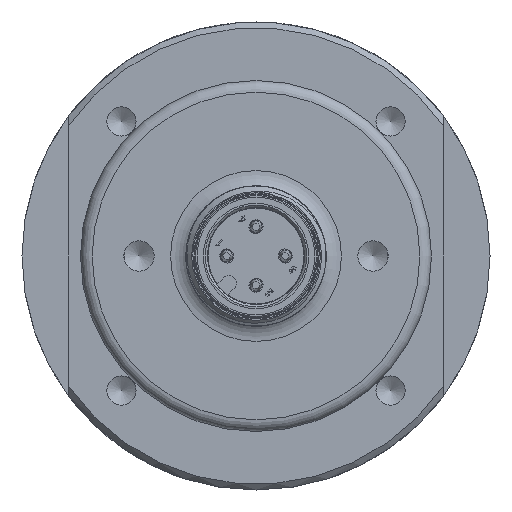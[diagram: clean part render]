
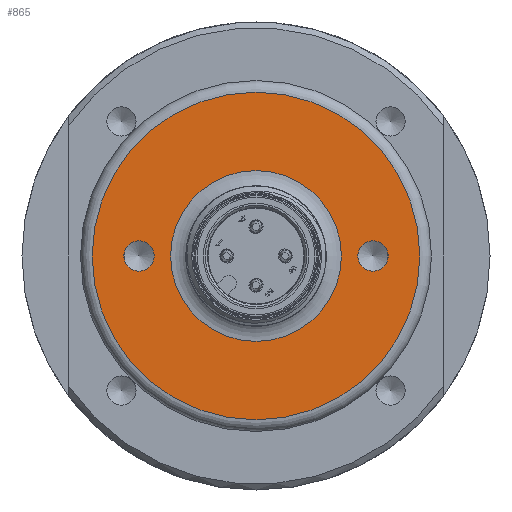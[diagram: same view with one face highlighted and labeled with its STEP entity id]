
A CAD part, front view. The second image highlights one B-rep face of the part: STEP entity #865.
In plain terms, the highlighted planar face has unit normal (0, -1, 0) as drawn and (0, 1, 0) by its records, which use the part's own axes.
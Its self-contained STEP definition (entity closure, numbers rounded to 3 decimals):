
#865 = ADVANCED_FACE( '', ( #1711, #1712, #1713, #1714 ), #1715, .T. );
#1711 = FACE_BOUND( '', #6386, .T. );
#1712 = FACE_OUTER_BOUND( '', #6387, .T. );
#1713 = FACE_BOUND( '', #6388, .T. );
#1714 = FACE_BOUND( '', #6389, .T. );
#1715 = PLANE( '', #6390 );
#6386 = EDGE_LOOP( '', ( #8309 ) );
#6387 = EDGE_LOOP( '', ( #8310 ) );
#6388 = EDGE_LOOP( '', ( #8311 ) );
#6389 = EDGE_LOOP( '', ( #8312 ) );
#6390 = AXIS2_PLACEMENT_3D( '', #8313, #8314, #8315 );
#8309 = ORIENTED_EDGE( '', *, *, #8699, .T. );
#8310 = ORIENTED_EDGE( '', *, *, #8629, .T. );
#8311 = ORIENTED_EDGE( '', *, *, #8486, .T. );
#8312 = ORIENTED_EDGE( '', *, *, #8434, .T. );
#8313 = CARTESIAN_POINT( '', ( -15., -2.104, 0. ) );
#8314 = DIRECTION( '', ( 0., 1., 0. ) );
#8315 = DIRECTION( '', ( -1., 0., 0. ) );
#8434 = EDGE_CURVE( '', #9075, #9075, #9076, .T. );
#8486 = EDGE_CURVE( '', #9173, #9173, #9174, .T. );
#8629 = EDGE_CURVE( '', #9408, #9408, #9409, .T. );
#8699 = EDGE_CURVE( '', #9515, #9515, #9516, .F. );
#9075 = VERTEX_POINT( '', #10031 );
#9076 = CIRCLE( '', #10032, 1.3 );
#9173 = VERTEX_POINT( '', #10332 );
#9174 = CIRCLE( '', #10333, 1.3 );
#9408 = VERTEX_POINT( '', #11841 );
#9409 = CIRCLE( '', #11842, 14. );
#9515 = VERTEX_POINT( '', #12064 );
#9516 = CIRCLE( '', #12065, 7.3 );
#10031 = CARTESIAN_POINT( '', ( -1.3, -2.104, 10. ) );
#10032 = AXIS2_PLACEMENT_3D( '', #14021, #14022, #14023 );
#10332 = CARTESIAN_POINT( '', ( -1.3, -2.104, -10. ) );
#10333 = AXIS2_PLACEMENT_3D( '', #14082, #14083, #14084 );
#11841 = CARTESIAN_POINT( '', ( -14., -2.104, 0. ) );
#11842 = AXIS2_PLACEMENT_3D( '', #14242, #14243, #14244 );
#12064 = CARTESIAN_POINT( '', ( -7.3, -2.104, 0. ) );
#12065 = AXIS2_PLACEMENT_3D( '', #14317, #14318, #14319 );
#14021 = CARTESIAN_POINT( '', ( 0., -2.104, 10. ) );
#14022 = DIRECTION( '', ( 0., -1., 0. ) );
#14023 = DIRECTION( '', ( -1., 0., 0. ) );
#14082 = CARTESIAN_POINT( '', ( 0., -2.104, -10. ) );
#14083 = DIRECTION( '', ( 0., -1., 0. ) );
#14084 = DIRECTION( '', ( -1., 0., 0. ) );
#14242 = CARTESIAN_POINT( '', ( 0., -2.104, 0. ) );
#14243 = DIRECTION( '', ( 0., 1., 0. ) );
#14244 = DIRECTION( '', ( -1., 0., 0. ) );
#14317 = CARTESIAN_POINT( '', ( 0., -2.104, 0. ) );
#14318 = DIRECTION( '', ( 0., 1., 0. ) );
#14319 = DIRECTION( '', ( -1., 0., 0. ) );
